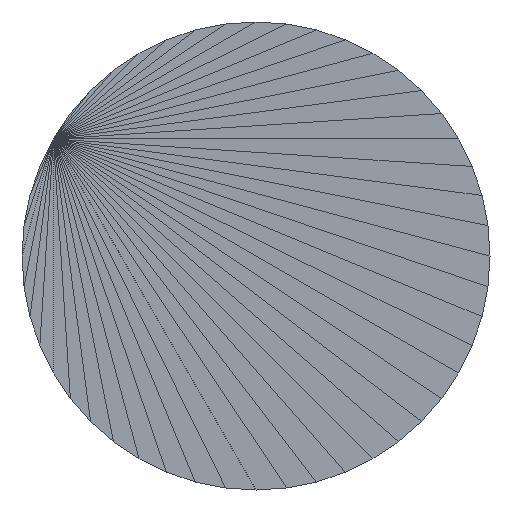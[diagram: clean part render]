
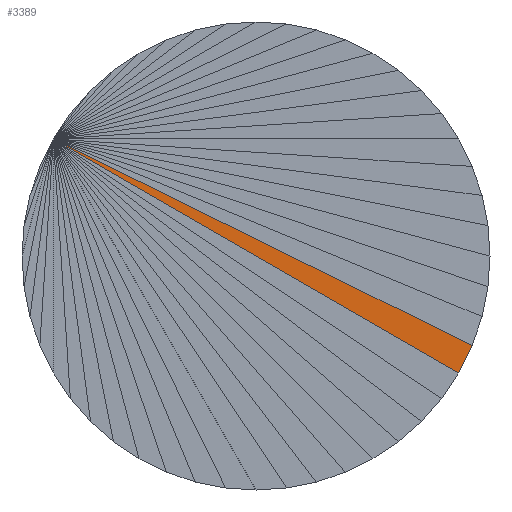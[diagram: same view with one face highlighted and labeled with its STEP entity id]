
A CAD part, front view. The second image highlights one B-rep face of the part: STEP entity #3389.
In plain terms, the highlighted planar face has unit normal (0, -1, 0).
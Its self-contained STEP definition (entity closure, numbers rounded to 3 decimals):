
#1735 = VERTEX_POINT('',#1736);
#1736 = CARTESIAN_POINT('',(-881.177,-72.3,398.));
#2455 = VERTEX_POINT('',#2456);
#2456 = CARTESIAN_POINT('',(-816.74,-72.3,366.223));
#2463 = PLANE('',#2464);
#2464 = AXIS2_PLACEMENT_3D('',#2465,#2466,#2467);
#2465 = CARTESIAN_POINT('',(-817.657,-71.931,
    364.364));
#2466 = DIRECTION('',(0.897,0.,-0.442
    ));
#2467 = DIRECTION('',(0.442,0.,0.897));
#2481 = EDGE_CURVE('',#2455,#2482,#2484,.T.);
#2482 = VERTEX_POINT('',#2483);
#2483 = CARTESIAN_POINT('',(-818.823,-72.3,362.));
#2484 = SURFACE_CURVE('',#2485,(#2489,#2496),.PCURVE_S1.);
#2485 = LINE('',#2486,#2487);
#2486 = CARTESIAN_POINT('',(-816.74,-72.3,366.223));
#2487 = VECTOR('',#2488,1.);
#2488 = DIRECTION('',(-0.442,0.,-0.897));
#2489 = PCURVE('',#2463,#2490);
#2490 = DEFINITIONAL_REPRESENTATION('',(#2491),#2495);
#2491 = LINE('',#2492,#2493);
#2492 = CARTESIAN_POINT('',(2.074,0.369));
#2493 = VECTOR('',#2494,1.);
#2494 = DIRECTION('',(-1.,0.));
#2495 = ( GEOMETRIC_REPRESENTATION_CONTEXT(2) 
PARAMETRIC_REPRESENTATION_CONTEXT() REPRESENTATION_CONTEXT('2D SPACE',''
  ) );
#2496 = PCURVE('',#2497,#2502);
#2497 = PLANE('',#2498);
#2498 = AXIS2_PLACEMENT_3D('',#2499,#2500,#2501);
#2499 = CARTESIAN_POINT('',(-848.475,-72.3,380.518));
#2500 = DIRECTION('',(-0.,-1.,-0.));
#2501 = DIRECTION('',(0.,0.,-1.));
#2502 = DEFINITIONAL_REPRESENTATION('',(#2503),#2506);
#2503 = B_SPLINE_CURVE_WITH_KNOTS('',1,(#2504,#2505),.UNSPECIFIED.,.F.,
  .F.,(2,2),(0.,4.709),.PIECEWISE_BEZIER_KNOTS.);
#2504 = CARTESIAN_POINT('',(14.294,31.735));
#2505 = CARTESIAN_POINT('',(18.518,29.652));
#2506 = ( GEOMETRIC_REPRESENTATION_CONTEXT(2) 
PARAMETRIC_REPRESENTATION_CONTEXT() REPRESENTATION_CONTEXT('2D SPACE',''
  ) );
#2635 = PLANE('',#2636);
#2636 = AXIS2_PLACEMENT_3D('',#2637,#2638,#2639);
#2637 = CARTESIAN_POINT('',(-849.686,-72.3,378.421));
#2638 = DIRECTION('',(-0.,-1.,-0.));
#2639 = DIRECTION('',(0.,0.,-1.));
#2943 = PLANE('',#2944);
#2944 = AXIS2_PLACEMENT_3D('',#2945,#2946,#2947);
#2945 = CARTESIAN_POINT('',(-847.544,-72.3,382.753));
#2946 = DIRECTION('',(-0.,-1.,-0.));
#2947 = DIRECTION('',(0.,0.,-1.));
#3349 = EDGE_CURVE('',#1735,#2455,#3350,.T.);
#3350 = SURFACE_CURVE('',#3351,(#3355,#3362),.PCURVE_S1.);
#3351 = LINE('',#3352,#3353);
#3352 = CARTESIAN_POINT('',(-881.177,-72.3,398.));
#3353 = VECTOR('',#3354,1.);
#3354 = DIRECTION('',(0.897,0.,-0.442));
#3355 = PCURVE('',#2943,#3356);
#3356 = DEFINITIONAL_REPRESENTATION('',(#3357),#3361);
#3357 = LINE('',#3358,#3359);
#3358 = CARTESIAN_POINT('',(-15.247,-33.633));
#3359 = VECTOR('',#3360,1.);
#3360 = DIRECTION('',(0.442,0.897));
#3361 = ( GEOMETRIC_REPRESENTATION_CONTEXT(2) 
PARAMETRIC_REPRESENTATION_CONTEXT() REPRESENTATION_CONTEXT('2D SPACE',''
  ) );
#3362 = PCURVE('',#2497,#3363);
#3363 = DEFINITIONAL_REPRESENTATION('',(#3364),#3367);
#3364 = B_SPLINE_CURVE_WITH_KNOTS('',1,(#3365,#3366),.UNSPECIFIED.,.F.,
  .F.,(2,2),(0.,71.846),.PIECEWISE_BEZIER_KNOTS.);
#3365 = CARTESIAN_POINT('',(-17.482,-32.702));
#3366 = CARTESIAN_POINT('',(14.294,31.735));
#3367 = ( GEOMETRIC_REPRESENTATION_CONTEXT(2) 
PARAMETRIC_REPRESENTATION_CONTEXT() REPRESENTATION_CONTEXT('2D SPACE',''
  ) );
#3389 = ADVANCED_FACE('',(#3390),#2497,.T.);
#3390 = FACE_BOUND('',#3391,.T.);
#3391 = EDGE_LOOP('',(#3392,#3412,#3413));
#3392 = ORIENTED_EDGE('',*,*,#3393,.T.);
#3393 = EDGE_CURVE('',#1735,#2482,#3394,.T.);
#3394 = SURFACE_CURVE('',#3395,(#3399,#3406),.PCURVE_S1.);
#3395 = LINE('',#3396,#3397);
#3396 = CARTESIAN_POINT('',(-881.177,-72.3,398.));
#3397 = VECTOR('',#3398,1.);
#3398 = DIRECTION('',(0.866,0.,-0.5));
#3399 = PCURVE('',#2497,#3400);
#3400 = DEFINITIONAL_REPRESENTATION('',(#3401),#3405);
#3401 = LINE('',#3402,#3403);
#3402 = CARTESIAN_POINT('',(-17.482,-32.702));
#3403 = VECTOR('',#3404,1.);
#3404 = DIRECTION('',(0.5,0.866));
#3405 = ( GEOMETRIC_REPRESENTATION_CONTEXT(2) 
PARAMETRIC_REPRESENTATION_CONTEXT() REPRESENTATION_CONTEXT('2D SPACE',''
  ) );
#3406 = PCURVE('',#2635,#3407);
#3407 = DEFINITIONAL_REPRESENTATION('',(#3408),#3411);
#3408 = B_SPLINE_CURVE_WITH_KNOTS('',1,(#3409,#3410),.UNSPECIFIED.,.F.,
  .F.,(2,2),(0.,72.),.PIECEWISE_BEZIER_KNOTS.);
#3409 = CARTESIAN_POINT('',(-19.579,-31.491));
#3410 = CARTESIAN_POINT('',(16.421,30.863));
#3411 = ( GEOMETRIC_REPRESENTATION_CONTEXT(2) 
PARAMETRIC_REPRESENTATION_CONTEXT() REPRESENTATION_CONTEXT('2D SPACE',''
  ) );
#3412 = ORIENTED_EDGE('',*,*,#2481,.F.);
#3413 = ORIENTED_EDGE('',*,*,#3349,.F.);
